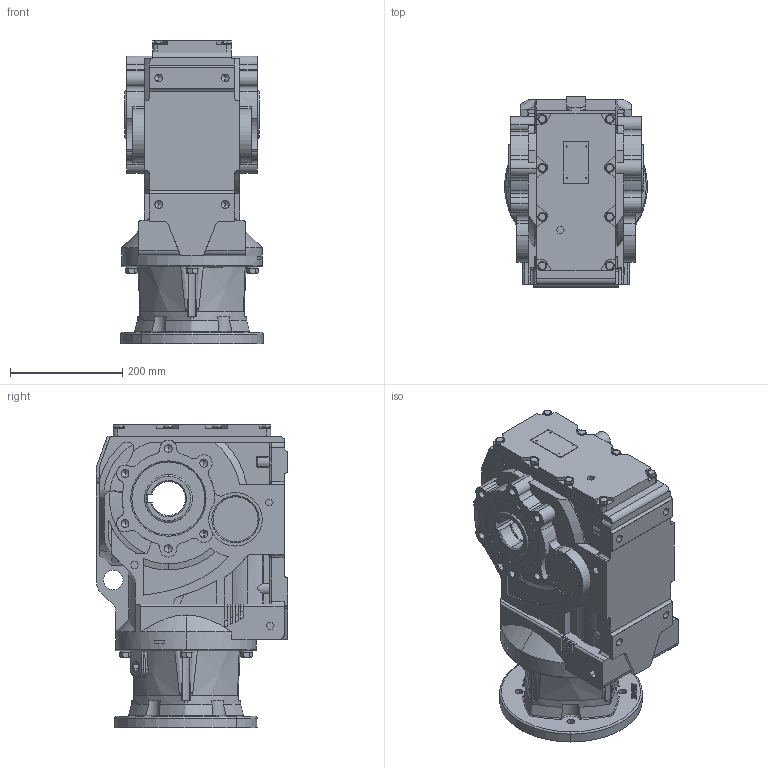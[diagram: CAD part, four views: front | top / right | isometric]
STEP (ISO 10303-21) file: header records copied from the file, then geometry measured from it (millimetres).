
FILE_DESCRIPTION (( 'STEP AP203' ), '1' );
FILE_NAME ('KAN87-254-6TC.STEP', '2022-04-09T03:24:41', ( 'user1' ), ( '' ), 'SwSTEP 2.0', 'SolidWorks 2012', '' );
FILE_SCHEMA (( 'CONFIG_CONTROL_DESIGN' ));
Length unit declared in the file: millimetre
Products named in the file (1): KAN87-254-6TC
Bounding box: 253.03 x 340 x 539.5 mm (x, y, z)
Volume: 24974743.8 mm3; surface area: 851547.8 mm2
Topology: 1 solids, 1 shells, 1393 faces, 3778 edges, 2421 vertices
Faces by surface type: plane 622, cylinder 439, cone 147, bspline 142, torus 43
Entity records: 54866 total; most frequent: CARTESIAN_POINT 20587, ORIENTED_EDGE 7448, DIRECTION 6757, EDGE_CURVE 3724, VERTEX_POINT 2421, AXIS2_PLACEMENT_3D 2397, VECTOR 1963, LINE 1963
